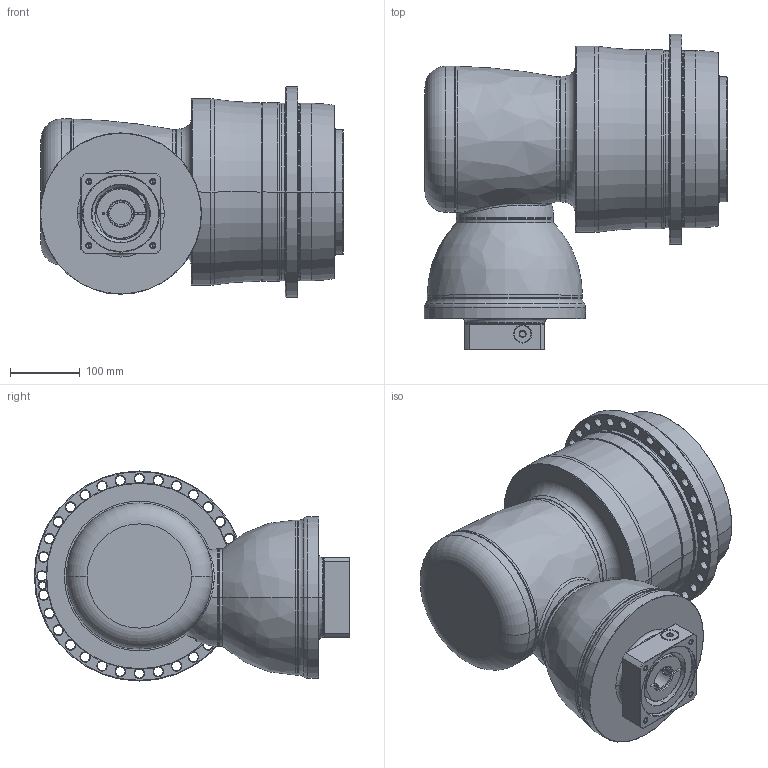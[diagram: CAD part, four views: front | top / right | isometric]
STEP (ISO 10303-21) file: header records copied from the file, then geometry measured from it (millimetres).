
FILE_DESCRIPTION((''),'2;1');
FILE_NAME('APK255_3ST_32-P0409710201_ASM','2018-11-21T',('D00080'),(''),'PRO/ENGINEER BY PARAMETRIC TECHNOLOGY CORPORATION, 2015240','PRO/ENGINEER BY PARAMETRIC TECHNOLOGY CORPORATION, 2015240','');
FILE_SCHEMA(('CONFIG_CONTROL_DESIGN'));
Length unit declared in the file: millimetre
Products named in the file (13): P1008600002; P1832700001; P0278701003; P0359701103; P1211700001; P1315600001; P1007601001; P1318610001; P0503700010; P0912650001; P0409710201; 21711418017; APK255_3ST_32-P0409710201_ASM
Assembly tree (12 placements, depth 2):
  APK255_3ST_32-P0409710201_ASM
    P1008600002
    P1832700001
    P0278701003
    P0359701103
    P1211700001
    P1315600001
    P1007601001
    P1318610001
    P0503700010
    P0912650001
    P0409710201
    21711418017
Bounding box: 436.5 x 453.5 x 302 mm (x, y, z)
Volume: 22469615.5 mm3; surface area: 1390246.7 mm2
Topology: 13 solids, 36 shells, 808 faces, 1893 edges, 1132 vertices
Faces by surface type: cylinder 310, cone 257, plane 121, torus 85, bspline 33, sphere 2
Entity records: 29732 total; most frequent: CARTESIAN_POINT 10542, DIRECTION 4411, ORIENTED_EDGE 3616, AXIS2_PLACEMENT_3D 1889, EDGE_CURVE 1855, VERTEX_POINT 1132, CIRCLE 1077, EDGE_LOOP 951
